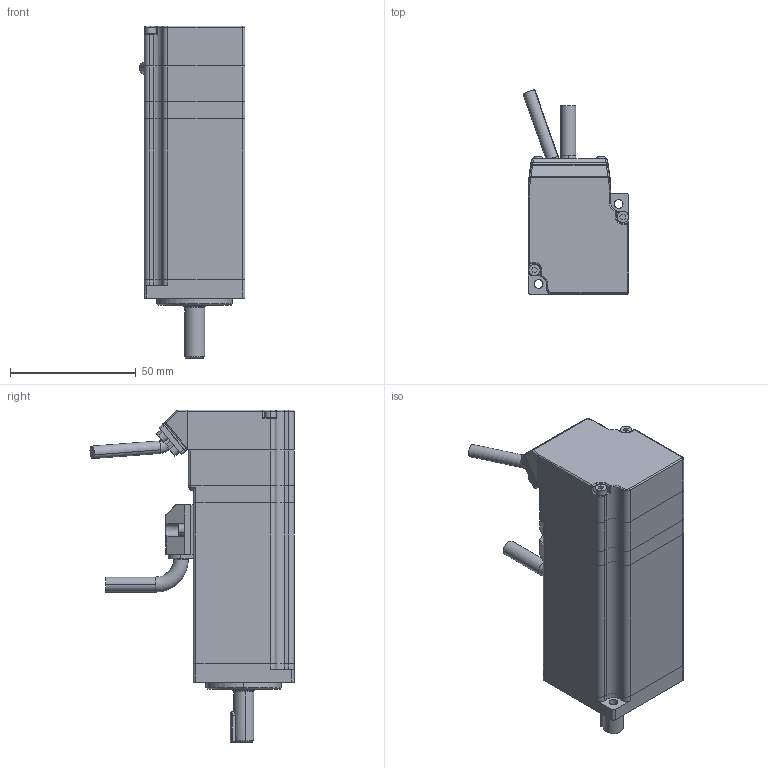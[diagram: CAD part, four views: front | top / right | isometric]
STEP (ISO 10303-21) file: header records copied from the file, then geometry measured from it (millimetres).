
FILE_DESCRIPTION (( 'STEP AP203' ), '1' );
FILE_NAME ('萇儂軞蚾-L40-NL-(E0).STEP', '2021-10-26T07:33:30', ( '' ), ( '' ), 'SwSTEP 2.0', 'SolidWorks 2018', '' );
FILE_SCHEMA (( 'CONFIG_CONTROL_DESIGN' ));
Length unit declared in the file: millimetre
Products named in the file (1): 萇儂軞蚾-L40-NL-(E0)
Bounding box: 42.1 x 81.12 x 132 mm (x, y, z)
Volume: 78364.1 mm3; surface area: 57741.4 mm2
Topology: 24 solids, 24 shells, 924 faces, 2262 edges, 1422 vertices
Faces by surface type: cylinder 422, plane 342, cone 108, torus 37, sphere 13, bspline 2
Entity records: 27667 total; most frequent: CARTESIAN_POINT 5049, DIRECTION 5026, ORIENTED_EDGE 4492, EDGE_CURVE 2246, AXIS2_PLACEMENT_3D 1921, VERTEX_POINT 1420, LINE 1184, VECTOR 1184
